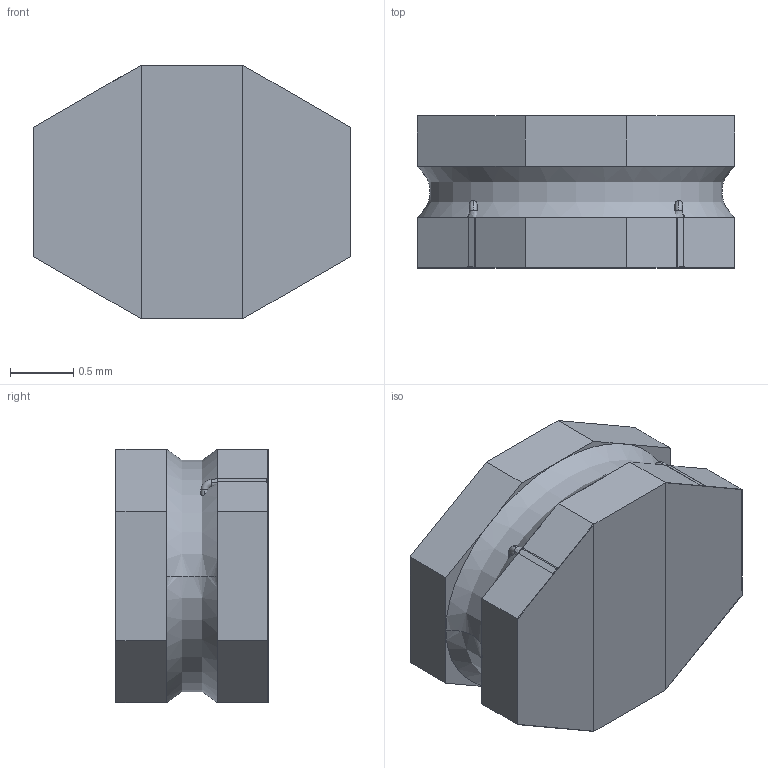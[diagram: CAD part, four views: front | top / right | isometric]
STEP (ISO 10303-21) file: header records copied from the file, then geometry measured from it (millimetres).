
FILE_DESCRIPTION (( 'STEP AP214' ), '1' );
FILE_NAME ('VLS252012ET-100M-CA.STEP', '2022-02-22T10:00:43', ( '' ), ( '' ), 'SwSTEP 2.0', 'SolidWorks 2017', '' );
FILE_SCHEMA (( 'AUTOMOTIVE_DESIGN' ));
Length unit declared in the file: millimetre
Products named in the file (1): VLS252012ET-100M-CA
Bounding box: 2.5 x 1.2 x 2 mm (x, y, z)
Volume: 4.7 mm3; surface area: 39.2 mm2
Topology: 7 solids, 7 shells, 80 faces, 186 edges, 120 vertices
Faces by surface type: plane 50, cylinder 16, bspline 8, torus 6
Entity records: 3029 total; most frequent: CARTESIAN_POINT 1138, ORIENTED_EDGE 372, DIRECTION 332, EDGE_CURVE 186, VERTEX_POINT 120, LINE 114, VECTOR 114, AXIS2_PLACEMENT_3D 109
